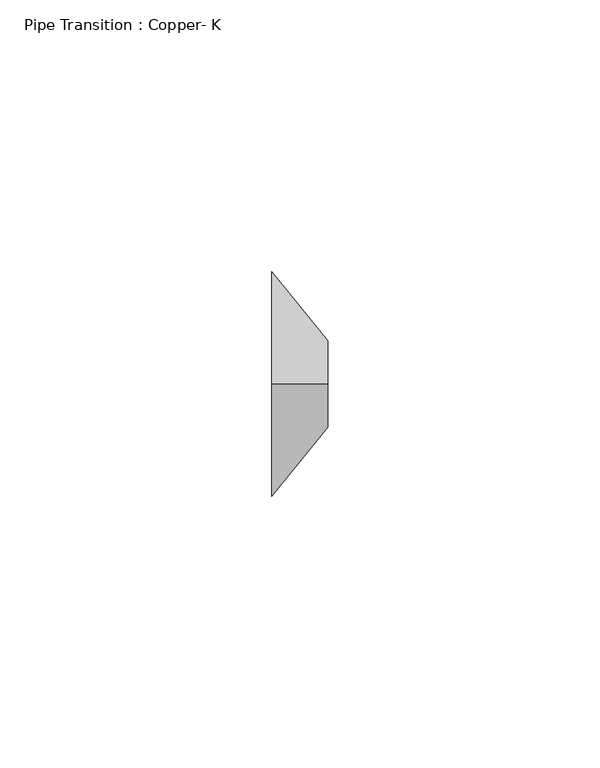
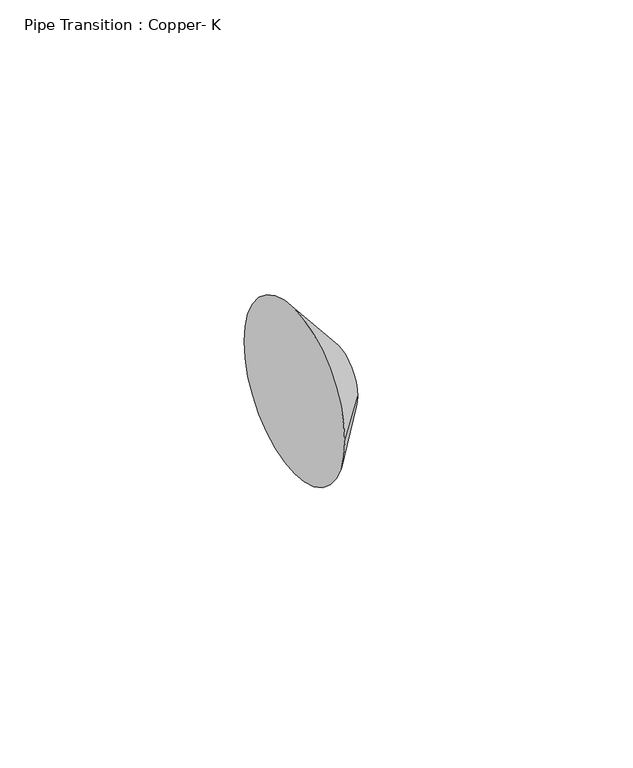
"""IFC4 building model written with IfcOpenShell, lengths in millimetres: pipe fitting geometry, Pipe Transition : Copper- K."""

from ifc_helpers import new_model, si_unit, frame, origin, place, context, project, spatial, polyline, circle_curve, source, transform, mapped, element, save
from ifc_brep_helpers import plane_surface, revolved_surface, advanced_brep


def pipe_transition_copper_k_0ad24bcb(model_context):
    return source(origin(), model_context, "Body", "AdvancedBrep", [
        advanced_brep(
        [(10.31875, 0.0, 7.9375), (10.31875, -7.9375, 0.0), (10.31875, 0.0, -7.9375), (10.31875, 7.9375, 0.0), (0.0, 0.0, 20.6375), (0.0, 20.6375, 0.0), (0.0, 0.0, -20.6375), (0.0, -20.6375, 0.0)],
        [
            (0, 1, circle_curve(frame((10.31875, 0.0, 0.0), z_axis=(1.0, 0.0, 0.0), x_axis=(0.0, -1.0, 0.0)), 7.9375)),
            (1, 2, circle_curve(frame((10.31875, 0.0, 0.0), z_axis=(1.0, 0.0, 0.0), x_axis=(0.0, 0.0, -1.0)), 7.9375)),
            (2, 3, circle_curve(frame((10.31875, 0.0, 0.0), z_axis=(1.0, 0.0, 0.0), x_axis=(0.0, 1.0, 0.0)), 7.9375)),
            (3, 0, circle_curve(frame((10.31875, 0.0, 0.0), z_axis=(1.0, 0.0, 0.0), x_axis=(0.0, 0.0, 1.0)), 7.9375)),
            (4, 5, circle_curve(frame((0.0, 0.0, 0.0), z_axis=(-1.0, 0.0, 0.0), x_axis=(0.0, 0.0, 1.0)), 20.6375)),
            (5, 6, circle_curve(frame((0.0, 0.0, 0.0), z_axis=(-1.0, 0.0, 0.0), x_axis=(0.0, 1.0, 0.0)), 20.6375)),
            (6, 7, circle_curve(frame((0.0, 0.0, 0.0), z_axis=(-1.0, 0.0, 0.0), x_axis=(0.0, 0.0, -1.0)), 20.6375)),
            (7, 4, circle_curve(frame((0.0, 0.0, 0.0), z_axis=(-1.0, 0.0, 0.0), x_axis=(0.0, -1.0, 0.0)), 20.6375)),
            (4, 0),
            (3, 5),
            (2, 6),
            (1, 7),
        ],
        [
            plane_surface(frame((10.31875, 0.0, 0.0), z_axis=(1.0, 0.0, 0.0), x_axis=(0.0, 1.0, 0.0))),
            plane_surface(frame((0.0, 0.0, 0.0), z_axis=(-1.0, 0.0, 0.0), x_axis=(0.0, 1.0, 0.0))),
            revolved_surface(polyline([(10.31875, 0.0, 7.937500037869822), (0.0, 0.0, 20.6375)]), (16.7679688, 0.0, 0.0), (-1.0, 0.0, 0.0)),
            revolved_surface(polyline([(10.31875, 7.937500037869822, 0.0), (0.0, 20.6375, 0.0)]), (16.7679688, 0.0, 0.0), (-1.0, 0.0, 0.0)),
            revolved_surface(polyline([(10.31875, 0.0, -7.937500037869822), (0.0, 0.0, -20.6375)]), (16.7679688, 0.0, 0.0), (-1.0, 0.0, 0.0)),
            revolved_surface(polyline([(10.31875, -7.937500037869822, 0.0), (0.0, -20.6375, 0.0)]), (16.7679688, 0.0, 0.0), (-1.0, 0.0, 0.0)),
        ],
        [
            (0, [[1, 2, 3, 4]]),
            (1, [[5, 6, 7, 8]]),
            (2, [[9, -4, 10, -5]]),
            (3, [[-10, -3, 11, -6]]),
            (4, [[-11, -2, 12, -7]]),
            (5, [[-12, -1, -9, -8]]),
        ],
    ),
        advanced_brep(
        [(10.31875, 0.0, 7.9375), (10.31875, -7.9375, 0.0), (10.31875, 0.0, -7.9375), (10.31875, 7.9375, 0.0), (0.0, 0.0, 20.6375), (0.0, 20.6375, 0.0), (0.0, 0.0, -20.6375), (0.0, -20.6375, 0.0)],
        [
            (0, 1, circle_curve(frame((10.31875, 0.0, 0.0), z_axis=(1.0, 0.0, 0.0), x_axis=(0.0, -1.0, 0.0)), 7.9375)),
            (1, 2, circle_curve(frame((10.31875, 0.0, 0.0), z_axis=(1.0, 0.0, -1.2689316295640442e-12), x_axis=(-1.2689873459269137e-12, 0.0, -1.0)), 7.9375)),
            (2, 3, circle_curve(frame((10.31875, 0.0, 0.0), z_axis=(1.0, 0.0, 0.0), x_axis=(0.0, 1.0, 0.0)), 7.9375)),
            (3, 0, circle_curve(frame((10.31875, 0.0, 0.0), z_axis=(1.0, 0.0, 0.0), x_axis=(0.0, 0.0, 1.0)), 7.9375)),
            (4, 5, circle_curve(frame((0.0, 0.0, 0.0), z_axis=(-1.0, 0.0, 0.0), x_axis=(0.0, 0.0, 1.0)), 20.6375)),
            (5, 6, circle_curve(frame((0.0, 0.0, 0.0), z_axis=(-1.0, 0.0, 0.0), x_axis=(0.0, 1.0, 0.0)), 20.6375)),
            (6, 7, circle_curve(frame((0.0, 0.0, 0.0), z_axis=(-1.0, 0.0, 1.2689316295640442e-12), x_axis=(-1.2689873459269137e-12, 0.0, -1.0)), 20.6375)),
            (7, 4, circle_curve(frame((0.0, 0.0, 0.0), z_axis=(-1.0, 0.0, 0.0), x_axis=(0.0, -1.0, 0.0)), 20.6375)),
            (4, 0),
            (3, 5),
            (2, 6),
            (1, 7),
        ],
        [
            plane_surface(frame((10.31875, 0.0, 0.0), z_axis=(1.0, 0.0, 0.0), x_axis=(0.0, 1.0, 0.0))),
            plane_surface(frame((0.0, 0.0, 0.0), z_axis=(-1.0, 0.0, 0.0), x_axis=(0.0, 1.0, 0.0))),
            revolved_surface(polyline([(10.31875, 0.0, 7.937500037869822), (0.0, 0.0, 20.6375)]), (16.7679688, 0.0, 0.0), (-1.0, 0.0, 0.0)),
            revolved_surface(polyline([(10.31875, 7.937500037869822, 0.0), (0.0, 20.6375, 0.0)]), (16.7679688, 0.0, 0.0), (-1.0, 0.0, 0.0)),
            revolved_surface(polyline([(10.31875, 0.0, -7.937499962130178), (-2.6187052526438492e-11, 0.0, -20.637500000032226)]), (16.7679687, 0.0, 0.0), (-1.0, 0.0, 1.2689316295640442e-12)),
            revolved_surface(polyline([(10.31875, -7.937499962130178, 0.0), (0.0, -20.6375, 0.0)]), (16.7679687, 0.0, 0.0), (-1.0, 0.0, 0.0)),
        ],
        [
            (0, [[1, 2, 3, 4]]),
            (1, [[5, 6, 7, 8]]),
            (2, [[9, -4, 10, -5]]),
            (3, [[-10, -3, 11, -6]]),
            (4, [[-11, -2, 12, -7]]),
            (5, [[-12, -1, -9, -8]]),
        ],
    ),
    ])


if __name__ == "__main__":
    model = new_model("IFC4")
    model_context = context("Model", 3, world=origin())
    ifc_project = project(units=[si_unit("LENGTHUNIT", "METRE", prefix="MILLI")], contexts=[model_context])
    site = spatial("IfcSite", under=ifc_project)
    building = spatial("IfcBuilding", under=site)
    placement = place(None, origin())
    pipe_transition_copper_k_shape = pipe_transition_copper_k_0ad24bcb(model_context)
    element("IfcPipeFitting", 1, ObjectType="Pipe Transition : Copper- K", at=placement, inside=building, context=model_context, shape_type="MappedRepresentation", body=[
        mapped(pipe_transition_copper_k_shape, transform((0.0, 0.0, 0.0), x_axis=(1.0, 0.0, 0.0), y_axis=(0.0, 1.0, 0.0), z_axis=(0.0, 0.0, 1.0))),
    ])
    save(model, "model.ifc")
